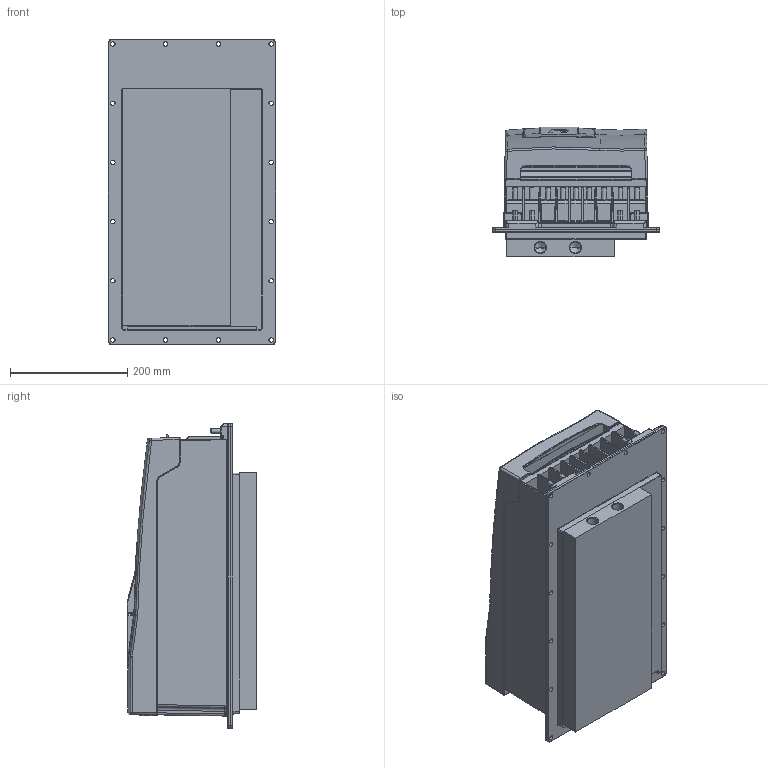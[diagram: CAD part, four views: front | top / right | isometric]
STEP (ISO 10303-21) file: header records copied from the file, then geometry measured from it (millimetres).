
FILE_DESCRIPTION (( 'STEP AP214' ), '1' );
FILE_NAME ('A1.STEP', '2023-04-11T13:21:46', ( '' ), ( '' ), 'SwSTEP 2.0', 'SolidWorks 2022', '' );
FILE_SCHEMA (( 'AUTOMOTIVE_DESIGN' ));
Length unit declared in the file: millimetre
Products named in the file (13): 10059764_000_Blindabdeckung (Kundenmodell); A1; Kundenmodell^10061793_000; 10061793_000_Deckelbaugruppe F6-6 (Kundenmodell); 10061997_000_Leistungsteil F6-6 TK5 (Kundenmodell); 10027052_000_Gehäusebaugruppe F6-6 (Kundenmodell); Kundenmodell^10044643_000; Kundenmodell^10061997_000; Kundenmodell^10059764_000; 10044643_000_Kundenmodell; Kundemmodell^10027377_000; Kundenmodell^10027052_000; 10027377_000_Kundenmodell
Assembly tree (12 placements, depth 4):
  A1
    10061997_000_Leistungsteil F6-6 TK5 (Kundenmodell)
      10027377_000_Kundenmodell
        Kundemmodell^10027377_000
      Kundenmodell^10061997_000
    10027052_000_Gehäusebaugruppe F6-6 (Kundenmodell)
      10061793_000_Deckelbaugruppe F6-6 (Kundenmodell)
        Kundenmodell^10061793_000
      Kundenmodell^10027052_000
    10044643_000_Kundenmodell
      10059764_000_Blindabdeckung (Kundenmodell)
        Kundenmodell^10059764_000
      Kundenmodell^10044643_000
Bounding box: 285 x 221.4 x 520 mm (x, y, z)
Volume: 21326438.8 mm3; surface area: 1292732.4 mm2
Topology: 13 solids, 19 shells, 2811 faces, 7054 edges, 4202 vertices
Faces by surface type: cylinder 1023, plane 889, bspline 611, sphere 106, torus 106, cone 76
Entity records: 95311 total; most frequent: CARTESIAN_POINT 33371, ORIENTED_EDGE 13794, DIRECTION 11853, EDGE_CURVE 6897, AXIS2_PLACEMENT_3D 4269, VERTEX_POINT 4200, LINE 3315, VECTOR 3315
